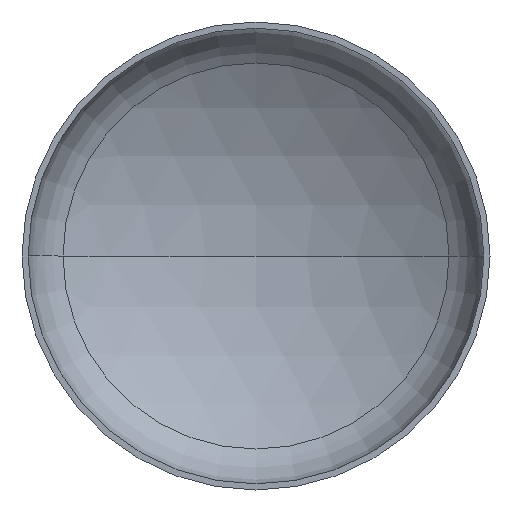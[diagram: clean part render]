
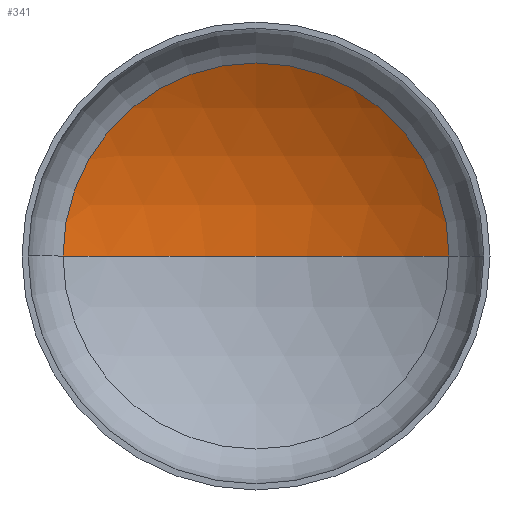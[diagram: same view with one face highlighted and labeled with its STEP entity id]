
A CAD part, front view. The second image highlights one B-rep face of the part: STEP entity #341.
In plain terms, the highlighted spherical face has radius 4400 mm.
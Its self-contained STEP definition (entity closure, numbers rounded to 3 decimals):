
#9 = CARTESIAN_POINT ( 'NONE',  ( -2268.692, 844.015, 0. ) ) ;
#15 = CARTESIAN_POINT ( 'NONE',  ( 0., 844.015, 0. ) ) ;
#19 = DIRECTION ( 'NONE',  ( 0., -1., 0. ) ) ;
#40 = CIRCLE ( 'NONE', #284, 4400. ) ;
#52 = DIRECTION ( 'NONE',  ( 0., 0., 1. ) ) ;
#67 = ORIENTED_EDGE ( 'NONE', *, *, #164, .F. ) ;
#84 = CARTESIAN_POINT ( 'NONE',  ( 2268.692, 844.015, 0. ) ) ;
#88 = FACE_OUTER_BOUND ( 'NONE', #142, .T. ) ;
#112 = DIRECTION ( 'NONE',  ( 1., 0., 0. ) ) ;
#121 = CARTESIAN_POINT ( 'NONE',  ( 0., -2926.003, 0. ) ) ;
#142 = EDGE_LOOP ( 'NONE', ( #67, #411, #173 ) ) ;
#145 = CARTESIAN_POINT ( 'NONE',  ( 0., 1473.997, 0. ) ) ;
#147 = DIRECTION ( 'NONE',  ( 0., 0., -1. ) ) ;
#149 = CARTESIAN_POINT ( 'NONE',  ( 0., -2926.003, 0. ) ) ;
#150 = DIRECTION ( 'NONE',  ( -1., 0., 0. ) ) ;
#164 = EDGE_CURVE ( 'NONE', #283, #205, #40, .T. ) ;
#173 = ORIENTED_EDGE ( 'NONE', *, *, #211, .T. ) ;
#175 = DIRECTION ( 'NONE',  ( 1., 0., 0. ) ) ;
#186 = EDGE_CURVE ( 'NONE', #283, #245, #217, .T. ) ;
#192 = AXIS2_PLACEMENT_3D ( 'NONE', #374, #342, #260 ) ;
#205 = VERTEX_POINT ( 'NONE', #9 ) ;
#211 = EDGE_CURVE ( 'NONE', #245, #205, #212, .T. ) ;
#212 = CIRCLE ( 'NONE', #323, 2268.692 ) ;
#217 = CIRCLE ( 'NONE', #267, 4400. ) ;
#245 = VERTEX_POINT ( 'NONE', #84 ) ;
#260 = DIRECTION ( 'NONE',  ( -1., 0., 0. ) ) ;
#267 = AXIS2_PLACEMENT_3D ( 'NONE', #149, #147, #150 ) ;
#269 = SPHERICAL_SURFACE ( 'NONE', #192, 4400. ) ;
#283 = VERTEX_POINT ( 'NONE', #145 ) ;
#284 = AXIS2_PLACEMENT_3D ( 'NONE', #121, #52, #112 ) ;
#323 = AXIS2_PLACEMENT_3D ( 'NONE', #15, #19, #175 ) ;
#341 = ADVANCED_FACE ( 'NONE', ( #88 ), #269, .F. ) ;
#342 = DIRECTION ( 'NONE',  ( 0., 0., -1. ) ) ;
#374 = CARTESIAN_POINT ( 'NONE',  ( 0., -2926.003, 0. ) ) ;
#411 = ORIENTED_EDGE ( 'NONE', *, *, #186, .T. ) ;
